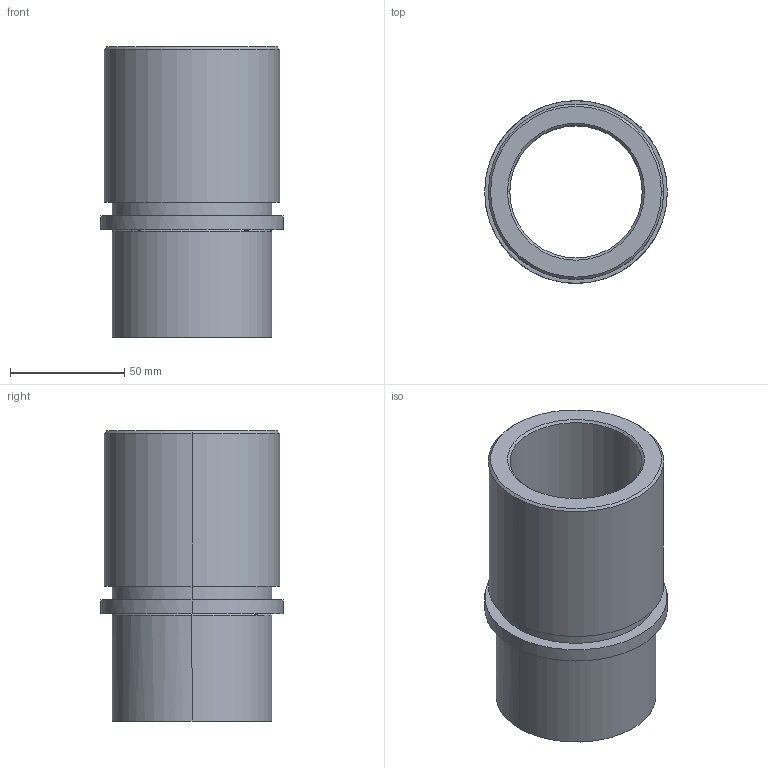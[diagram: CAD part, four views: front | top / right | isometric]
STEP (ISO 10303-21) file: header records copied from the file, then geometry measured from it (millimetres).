
FILE_DESCRIPTION(('CATIA V5 STEP Exchange'),'2;1');
FILE_NAME('C:\Users\Utente\Desktop\IO LAVORO\3D X SITO CF\X SITO\733\733-50.stp','2021-01-11T17:30:55+00:00',('none'),('none'),'CATIA Version 5 Release 20 GA (IN-10)','CATIA V5 STEP AP203','none');
FILE_SCHEMA(('CONFIG_CONTROL_DESIGN'));
Length unit declared in the file: millimetre
Products named in the file (1): 733-50
Assembly tree (1 placements, depth 2):
  733-50
    #58
Bounding box: 80 x 80 x 127 mm (x, y, z)
Volume: 213100.9 mm3; surface area: 59048.9 mm2
Topology: 1 solids, 1 shells, 25 faces, 50 edges, 30 vertices
Faces by surface type: cylinder 10, cone 6, plane 5, torus 4
Entity records: 851 total; most frequent: CARTESIAN_POINT 282, ORIENTED_EDGE 100, DIRECTION 96, AXIS2_PLACEMENT_3D 53, EDGE_CURVE 50, EDGE_LOOP 30, VERTEX_POINT 30, CIRCLE 26
